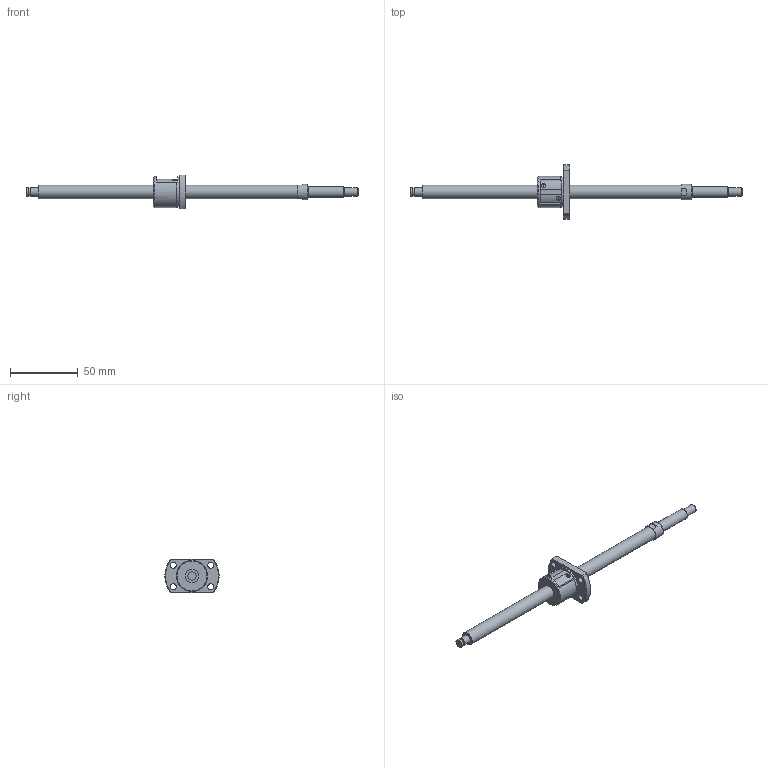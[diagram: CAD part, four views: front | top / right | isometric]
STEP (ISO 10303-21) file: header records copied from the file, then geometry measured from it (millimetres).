
FILE_DESCRIPTION(/* description */ ('STEP AP214'),/* implementation_level */ '2;1');
FILE_NAME(/* name */ 'SRT1002-187R245C7B0X(85Processing)',/* time_stamp */ '2026-08-05T22:54:13+02:00',/* author */ ('License CC BY-ND 4.0'),/* organization */ ('CADENAS'),/* preprocessor_version */ 'ST-DEVELOPER v20',/* originating_system */ 'PARTsolutions',/* authorisation */ ' ');
FILE_SCHEMA (('AUTOMOTIVE_DESIGN {1 0 10303 214 3 1 1}'));
Length unit declared in the file: millimetre
Products named in the file (3): SRT1002-187R245C7B0X(85Processing); SRT1002-187R270BCt7Processing57Shaft; SRT1002Nut
Assembly tree (2 placements, depth 2):
  SRT1002-187R245C7B0X(85Processing)
    SRT1002-187R270BCt7Processing57Shaft
    SRT1002Nut
Bounding box: 245 x 40 x 25 mm (x, y, z)
Volume: 27506.3 mm3; surface area: 12110.7 mm2
Topology: 2 solids, 2 shells, 67 faces, 161 edges, 106 vertices
Faces by surface type: plane 34, cylinder 20, cone 12, torus 1
Full cylindrical faces by diameter (mm): 1.4 x2, 4.5 x4, 5.7 x1, 6 x3, 8 x1, 10 x2, 11.5 x1, 22.5 x1, 23 x1
Entity records: 1851 total; most frequent: CARTESIAN_POINT 354, DIRECTION 308, ORIENTED_EDGE 246, AXIS2_PLACEMENT_3D 133, EDGE_CURVE 123, EDGE_LOOP 110, FACE_BOUND 110, VERTEX_POINT 93
